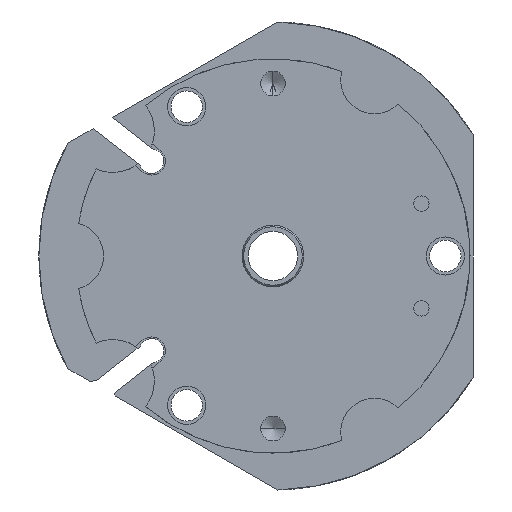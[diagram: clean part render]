
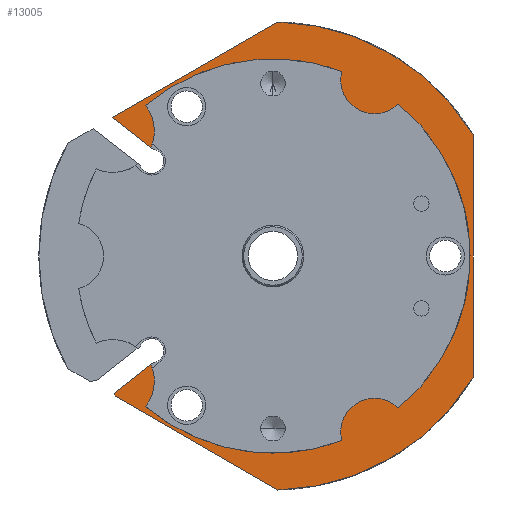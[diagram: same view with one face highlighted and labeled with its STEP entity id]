
A CAD part, front view. The second image highlights one B-rep face of the part: STEP entity #13005.
In plain terms, the highlighted planar face has unit normal (0, -1, 0).
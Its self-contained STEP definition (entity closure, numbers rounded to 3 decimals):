
#112 = DIRECTION ( 'NONE',  ( -0.259, 0., 0.966 ) ) ;
#165 = EDGE_CURVE ( 'NONE', #4766, #12215, #13122, .T. ) ;
#319 = DIRECTION ( 'NONE',  ( 0., -1., 0. ) ) ;
#329 = AXIS2_PLACEMENT_3D ( 'NONE', #10739, #319, #7202 ) ;
#520 = CIRCLE ( 'NONE', #8552, 32. ) ;
#596 = CARTESIAN_POINT ( 'NONE',  ( 0., -21., 0. ) ) ;
#642 = ORIENTED_EDGE ( 'NONE', *, *, #6180, .T. ) ;
#896 = ORIENTED_EDGE ( 'NONE', *, *, #165, .T. ) ;
#914 = CIRCLE ( 'NONE', #8317, 7.5 ) ;
#1069 = EDGE_CURVE ( 'NONE', #12215, #10746, #9724, .T. ) ;
#1123 = AXIS2_PLACEMENT_3D ( 'NONE', #12304, #13685, #6563 ) ;
#1145 = DIRECTION ( 'NONE',  ( 0., 0., 1. ) ) ;
#1663 = EDGE_CURVE ( 'NONE', #12259, #4766, #4806, .T. ) ;
#1669 = CARTESIAN_POINT ( 'NONE',  ( -25.731, -21., -22.261 ) ) ;
#1864 = CARTESIAN_POINT ( 'NONE',  ( 9.284, -21., -30.624 ) ) ;
#1888 = VERTEX_POINT ( 'NONE', #4142 ) ;
#1890 = CARTESIAN_POINT ( 'NONE',  ( 0., -21., 0. ) ) ;
#1901 = CARTESIAN_POINT ( 'NONE',  ( 16.5, -21., 28.579 ) ) ;
#2100 = LINE ( 'NONE', #12694, #3028 ) ;
#2183 = VECTOR ( 'NONE', #112, 1000. ) ;
#2204 = CARTESIAN_POINT ( 'NONE',  ( 0., -21., 0. ) ) ;
#2235 = ORIENTED_EDGE ( 'NONE', *, *, #14673, .T. ) ;
#2541 = ORIENTED_EDGE ( 'NONE', *, *, #11928, .F. ) ;
#2761 = DIRECTION ( 'NONE',  ( 0., -1., 0. ) ) ;
#2936 = ORIENTED_EDGE ( 'NONE', *, *, #15040, .T. ) ;
#3021 = CARTESIAN_POINT ( 'NONE',  ( 21.879, -21., 23.352 ) ) ;
#3028 = VECTOR ( 'NONE', #13723, 1000. ) ;
#3108 = CARTESIAN_POINT ( 'NONE',  ( -25.731, -21., -22.261 ) ) ;
#3334 = ORIENTED_EDGE ( 'NONE', *, *, #8679, .T. ) ;
#3456 = CARTESIAN_POINT ( 'NONE',  ( 16.5, -21., -28.579 ) ) ;
#3544 = CARTESIAN_POINT ( 'NONE',  ( 16.5, -21., 21.079 ) ) ;
#3567 = EDGE_CURVE ( 'NONE', #1888, #7974, #5638, .T. ) ;
#3624 = VERTEX_POINT ( 'NONE', #14453 ) ;
#3661 = VERTEX_POINT ( 'NONE', #1864 ) ;
#3666 = DIRECTION ( 'NONE',  ( 0., -1., 0. ) ) ;
#3676 = ORIENTED_EDGE ( 'NONE', *, *, #8766, .F. ) ;
#3694 = CARTESIAN_POINT ( 'NONE',  ( 32.5, -21., -19.691 ) ) ;
#3713 = DIRECTION ( 'NONE',  ( 0., 0., -1. ) ) ;
#3717 = VERTEX_POINT ( 'NONE', #4114 ) ;
#3722 = CARTESIAN_POINT ( 'NONE',  ( -26.034, -21., 22.497 ) ) ;
#3829 = DIRECTION ( 'NONE',  ( 0., 0., -1. ) ) ;
#3868 = ORIENTED_EDGE ( 'NONE', *, *, #8115, .T. ) ;
#4114 = CARTESIAN_POINT ( 'NONE',  ( -19.81, -21., -17.635 ) ) ;
#4142 = CARTESIAN_POINT ( 'NONE',  ( -25.601, -21., -22.747 ) ) ;
#4363 = VECTOR ( 'NONE', #11866, 1000. ) ;
#4436 = CARTESIAN_POINT ( 'NONE',  ( 9.284, -21., 30.624 ) ) ;
#4649 = CARTESIAN_POINT ( 'NONE',  ( 0., -21., 0. ) ) ;
#4659 = CARTESIAN_POINT ( 'NONE',  ( -20.659, -21., 24.438 ) ) ;
#4697 = DIRECTION ( 'NONE',  ( 0., -1., 0. ) ) ;
#4737 = DIRECTION ( 'NONE',  ( 0., -1., 0. ) ) ;
#4766 = VERTEX_POINT ( 'NONE', #10485 ) ;
#4806 = LINE ( 'NONE', #9737, #11323 ) ;
#4845 = DIRECTION ( 'NONE',  ( 0., -1., 0. ) ) ;
#5046 = LINE ( 'NONE', #14743, #13776 ) ;
#5223 = ORIENTED_EDGE ( 'NONE', *, *, #1069, .T. ) ;
#5458 = AXIS2_PLACEMENT_3D ( 'NONE', #10754, #2761, #3829 ) ;
#5559 = EDGE_CURVE ( 'NONE', #1888, #11596, #5046, .T. ) ;
#5638 = LINE ( 'NONE', #1669, #2183 ) ;
#5877 = EDGE_LOOP ( 'NONE', ( #896, #5223, #11180, #2235, #14300, #2541, #3334, #3676, #8316, #642, #3868, #7721, #7617, #6262, #2936, #6432, #6205 ) ) ;
#5911 = VERTEX_POINT ( 'NONE', #3544 ) ;
#5933 = CIRCLE ( 'NONE', #329, 6.75 ) ;
#5955 = PLANE ( 'NONE',  #8198 ) ;
#6108 = AXIS2_PLACEMENT_3D ( 'NONE', #4649, #4697, #7094 ) ;
#6180 = EDGE_CURVE ( 'NONE', #3624, #3717, #5933, .T. ) ;
#6205 = ORIENTED_EDGE ( 'NONE', *, *, #1663, .T. ) ;
#6262 = ORIENTED_EDGE ( 'NONE', *, *, #7386, .T. ) ;
#6331 = DIRECTION ( 'NONE',  ( 0., 0., -1. ) ) ;
#6432 = ORIENTED_EDGE ( 'NONE', *, *, #10165, .T. ) ;
#6542 = DIRECTION ( 'NONE',  ( 0.866, 0., -0.5 ) ) ;
#6563 = DIRECTION ( 'NONE',  ( 0., 0., -1. ) ) ;
#6663 = VERTEX_POINT ( 'NONE', #9337 ) ;
#6669 = CARTESIAN_POINT ( 'NONE',  ( -19.81, -21., 17.635 ) ) ;
#6913 = DIRECTION ( 'NONE',  ( 0., 0., -1. ) ) ;
#7043 = CIRCLE ( 'NONE', #14518, 38. ) ;
#7094 = DIRECTION ( 'NONE',  ( 0., 0., -1. ) ) ;
#7202 = DIRECTION ( 'NONE',  ( 0., 0., -1. ) ) ;
#7236 = CIRCLE ( 'NONE', #10273, 7.5 ) ;
#7386 = EDGE_CURVE ( 'NONE', #11596, #13671, #11485, .T. ) ;
#7617 = ORIENTED_EDGE ( 'NONE', *, *, #5559, .T. ) ;
#7721 = ORIENTED_EDGE ( 'NONE', *, *, #3567, .F. ) ;
#7781 = VERTEX_POINT ( 'NONE', #12107 ) ;
#7974 = VERTEX_POINT ( 'NONE', #3108 ) ;
#8115 = EDGE_CURVE ( 'NONE', #3717, #7974, #13107, .T. ) ;
#8198 = AXIS2_PLACEMENT_3D ( 'NONE', #12876, #4845, #12925 ) ;
#8316 = ORIENTED_EDGE ( 'NONE', *, *, #9837, .F. ) ;
#8317 = AXIS2_PLACEMENT_3D ( 'NONE', #1901, #14694, #10044 ) ;
#8371 = CARTESIAN_POINT ( 'NONE',  ( 0., -21., 0. ) ) ;
#8431 = DIRECTION ( 'NONE',  ( -0.866, 0., -0.5 ) ) ;
#8552 = AXIS2_PLACEMENT_3D ( 'NONE', #8371, #9499, #10670 ) ;
#8679 = EDGE_CURVE ( 'NONE', #6663, #3661, #9968, .T. ) ;
#8766 = EDGE_CURVE ( 'NONE', #7781, #3661, #520, .T. ) ;
#8808 = DIRECTION ( 'NONE',  ( 0., -1., 0. ) ) ;
#9040 = CARTESIAN_POINT ( 'NONE',  ( 0.803, -21., 37.992 ) ) ;
#9337 = CARTESIAN_POINT ( 'NONE',  ( 21.879, -21., -23.352 ) ) ;
#9404 = CIRCLE ( 'NONE', #6108, 32. ) ;
#9499 = DIRECTION ( 'NONE',  ( 0., -1., 0. ) ) ;
#9523 = VERTEX_POINT ( 'NONE', #14565 ) ;
#9724 = CIRCLE ( 'NONE', #1123, 6.75 ) ;
#9737 = CARTESIAN_POINT ( 'NONE',  ( 0.803, -21., 37.992 ) ) ;
#9819 = AXIS2_PLACEMENT_3D ( 'NONE', #3456, #4737, #6913 ) ;
#9837 = EDGE_CURVE ( 'NONE', #3624, #7781, #14871, .T. ) ;
#9968 = CIRCLE ( 'NONE', #9819, 7.5 ) ;
#9979 = DIRECTION ( 'NONE',  ( 0., 0., 1. ) ) ;
#10044 = DIRECTION ( 'NONE',  ( 0., 0., -1. ) ) ;
#10165 = EDGE_CURVE ( 'NONE', #9523, #12259, #7043, .T. ) ;
#10273 = AXIS2_PLACEMENT_3D ( 'NONE', #10682, #3666, #3713 ) ;
#10485 = CARTESIAN_POINT ( 'NONE',  ( -26.034, -21., 22.497 ) ) ;
#10670 = DIRECTION ( 'NONE',  ( 0., 0., -1. ) ) ;
#10682 = CARTESIAN_POINT ( 'NONE',  ( 16.5, -21., 28.579 ) ) ;
#10739 = CARTESIAN_POINT ( 'NONE',  ( -26.004, -21., -20.317 ) ) ;
#10746 = VERTEX_POINT ( 'NONE', #4659 ) ;
#10754 = CARTESIAN_POINT ( 'NONE',  ( 0., -21., 0. ) ) ;
#10959 = DIRECTION ( 'NONE',  ( 0., -1., 0. ) ) ;
#11180 = ORIENTED_EDGE ( 'NONE', *, *, #14534, .F. ) ;
#11323 = VECTOR ( 'NONE', #8431, 1000. ) ;
#11441 = DIRECTION ( 'NONE',  ( -0.788, 0., -0.616 ) ) ;
#11485 = CIRCLE ( 'NONE', #13988, 38. ) ;
#11596 = VERTEX_POINT ( 'NONE', #12226 ) ;
#11614 = DIRECTION ( 'NONE',  ( 0., -1., 0. ) ) ;
#11866 = DIRECTION ( 'NONE',  ( 0.788, 0., -0.616 ) ) ;
#11928 = EDGE_CURVE ( 'NONE', #6663, #13864, #13542, .T. ) ;
#12107 = CARTESIAN_POINT ( 'NONE',  ( 0., -21., -32. ) ) ;
#12215 = VERTEX_POINT ( 'NONE', #6669 ) ;
#12226 = CARTESIAN_POINT ( 'NONE',  ( 0.803, -21., -37.992 ) ) ;
#12259 = VERTEX_POINT ( 'NONE', #9040 ) ;
#12304 = CARTESIAN_POINT ( 'NONE',  ( -26.004, -21., 20.317 ) ) ;
#12694 = CARTESIAN_POINT ( 'NONE',  ( 32.5, -21., 0. ) ) ;
#12876 = CARTESIAN_POINT ( 'NONE',  ( 0., -21., 0. ) ) ;
#12925 = DIRECTION ( 'NONE',  ( 0., 0., -1. ) ) ;
#12933 = VECTOR ( 'NONE', #11441, 1000. ) ;
#13005 = ADVANCED_FACE ( 'NONE', ( #14386 ), #5955, .T. ) ;
#13107 = LINE ( 'NONE', #13845, #12933 ) ;
#13122 = LINE ( 'NONE', #3722, #4363 ) ;
#13355 = EDGE_CURVE ( 'NONE', #5911, #13864, #914, .T. ) ;
#13542 = CIRCLE ( 'NONE', #5458, 32. ) ;
#13671 = VERTEX_POINT ( 'NONE', #3694 ) ;
#13685 = DIRECTION ( 'NONE',  ( 0., -1., 0. ) ) ;
#13723 = DIRECTION ( 'NONE',  ( 0., 0., 1. ) ) ;
#13776 = VECTOR ( 'NONE', #6542, 1000. ) ;
#13845 = CARTESIAN_POINT ( 'NONE',  ( -19.81, -21., -17.635 ) ) ;
#13864 = VERTEX_POINT ( 'NONE', #3021 ) ;
#13988 = AXIS2_PLACEMENT_3D ( 'NONE', #1890, #8808, #9979 ) ;
#14300 = ORIENTED_EDGE ( 'NONE', *, *, #13355, .T. ) ;
#14386 = FACE_OUTER_BOUND ( 'NONE', #5877, .T. ) ;
#14453 = CARTESIAN_POINT ( 'NONE',  ( -20.659, -21., -24.438 ) ) ;
#14470 = VERTEX_POINT ( 'NONE', #4436 ) ;
#14518 = AXIS2_PLACEMENT_3D ( 'NONE', #2204, #11614, #1145 ) ;
#14534 = EDGE_CURVE ( 'NONE', #14470, #10746, #9404, .T. ) ;
#14565 = CARTESIAN_POINT ( 'NONE',  ( 32.5, -21., 19.691 ) ) ;
#14616 = AXIS2_PLACEMENT_3D ( 'NONE', #596, #10959, #6331 ) ;
#14673 = EDGE_CURVE ( 'NONE', #14470, #5911, #7236, .T. ) ;
#14694 = DIRECTION ( 'NONE',  ( 0., -1., 0. ) ) ;
#14743 = CARTESIAN_POINT ( 'NONE',  ( -25.601, -21., -22.747 ) ) ;
#14871 = CIRCLE ( 'NONE', #14616, 32. ) ;
#15040 = EDGE_CURVE ( 'NONE', #13671, #9523, #2100, .T. ) ;
